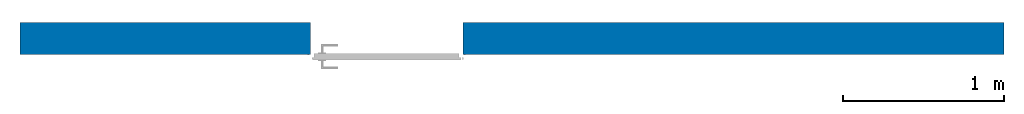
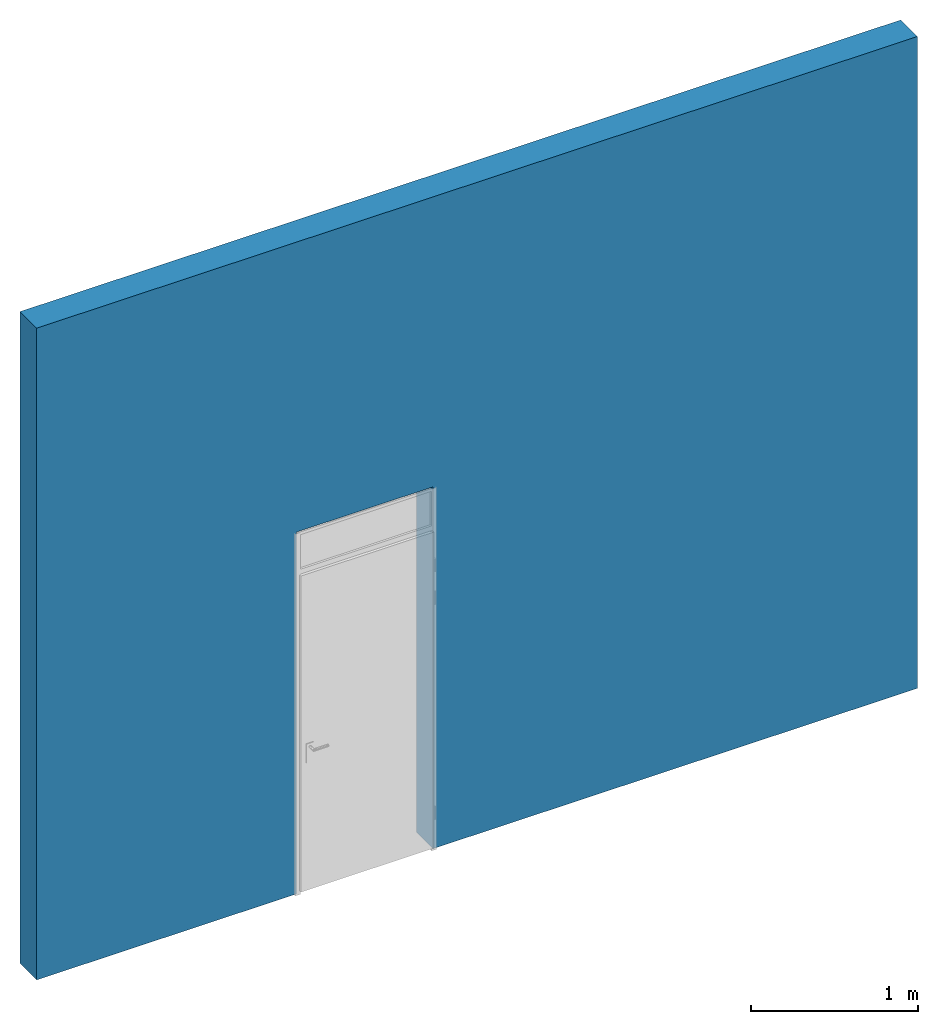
# One storey, incomplete: 1 wall, 1 opening.
"""IFC2X3 building model written with IfcOpenShell, lengths in millimetres."""

import ifcopenshell
import ifcopenshell.guid

model = None  # the IFC model being written
_history = None  # IfcOwnerHistory: only IFC2X3 demands one
_inside = {}  # id of a spatial element -> (the spatial element, [elements in it])
_under = {}  # id of a project, library or spatial element -> (it, [spatial elements below it])
_declared = {}  # id of a project -> (the project, [libraries it declares])
_typed = {}  # id of a type object -> (the type object, [elements of that type])
_made_of = {}  # id of a material, layer set ... -> (it, [elements and type objects made of it])


def new_model(schema):
    """Start an empty IFC model of exactly this schema.

    Asked for "IFC4X3", IfcOpenShell would pick the latest addendum, in which some entities
    have other attributes; the version numbers below select the first issue.
    IFC2X3 requires an IfcOwnerHistory on every rooted entity: one is made here for all.
    """
    global model, _history
    if schema == "IFC4X3":
        model = ifcopenshell.file(schema_version=(4, 3, 0, 0))
    else:
        model = ifcopenshell.file(schema=schema)
    _inside.clear()
    _under.clear()
    _declared.clear()
    _typed.clear()
    _made_of.clear()
    _history = None
    if model.schema == "IFC2X3":
        org = make("IfcOrganization", Name="unknown")
        user = make(
            "IfcPersonAndOrganization",
            ThePerson=make("IfcPerson", FamilyName="unknown"),
            TheOrganization=org,
        )
        app = make(
            "IfcApplication",
            ApplicationDeveloper=org,
            Version="unknown",
            ApplicationFullName="unknown",
            ApplicationIdentifier="unknown",
        )
        _history = make(
            "IfcOwnerHistory",
            OwningUser=user,
            OwningApplication=app,
            ChangeAction="ADDED",
            CreationDate=0,
        )
    return model


def make(cls, **values):
    """One entity of the class cls with the attributes given. An attribute that is None is left unset."""
    return model.create_entity(
        cls, **{name: value for name, value in values.items() if value is not None}
    )


def entity(cls, *values):
    """Any entity or typed value of the class cls, its attributes in the order of the schema. None: left unset."""
    e = model.create_entity(cls)
    for i, value in enumerate(values):
        if value is not None:
            e[i] = value
    return e


def rooted(cls, **values):
    """An entity with a GlobalId (a new one), such as an element, a storey or a relation."""
    return make(cls, GlobalId=ifcopenshell.guid.new(), OwnerHistory=_history, **values)


def si_unit(unit_type, name, prefix=None):
    """IfcSIUnit, for example si_unit("LENGTHUNIT", "METRE", prefix="MILLI")."""
    return make("IfcSIUnit", UnitType=unit_type, Prefix=prefix, Name=name)


def converted_unit(unit_type, name, factor, base, dimensions=None, offset=None):
    """IfcConversionBasedUnit, such as the inch: factor (a typed value) times the base unit."""
    return make(
        "IfcConversionBasedUnit"
        if offset is None
        else "IfcConversionBasedUnitWithOffset",
        ConversionOffset=offset,
        Dimensions=None
        if dimensions is None
        else entity("IfcDimensionalExponents", *dimensions),
        UnitType=unit_type,
        Name=name,
        ConversionFactor=make(
            "IfcMeasureWithUnit", ValueComponent=factor, UnitComponent=base
        ),
    )


def derived_unit(unit_type, elements):
    """IfcDerivedUnit: a product of units, each with its exponent."""
    return make(
        "IfcDerivedUnit",
        Elements=[
            make("IfcDerivedUnitElement", Unit=unit, Exponent=power)
            for unit, power in elements
        ],
        UnitType=unit_type,
    )


def assignment(units):
    """IfcUnitAssignment: the units of a project."""
    return None if units is None else make("IfcUnitAssignment", Units=units)


def point(xyz):
    """IfcCartesianPoint."""
    return None if xyz is None else make("IfcCartesianPoint", Coordinates=xyz)


def direction(xyz):
    """IfcDirection."""
    return None if xyz is None else make("IfcDirection", DirectionRatios=xyz)


def frame(location, z_axis=None, x_axis=None):
    """IfcAxis2Placement3D, a coordinate frame: its origin and axes. An axis left out is left unset."""
    return make(
        "IfcAxis2Placement3D",
        Location=point(location),
        Axis=direction(z_axis),
        RefDirection=direction(x_axis),
    )


def frame_2d(location, x_axis=None):
    """IfcAxis2Placement2D, a coordinate frame in the plane: its origin and x axis."""
    return make(
        "IfcAxis2Placement2D", Location=point(location), RefDirection=direction(x_axis)
    )


def origin():
    """The frame at (0, 0, 0) with its axes left unset."""
    return frame((0.0, 0.0, 0.0))


def place(relative_to, where):
    """IfcLocalPlacement: puts the frame where relative to a parent placement (None: the world)."""
    return make(
        "IfcLocalPlacement", PlacementRelTo=relative_to, RelativePlacement=where
    )


def context(
    kind, dimensions, precision=None, world=None, true_north=None, identifier=None
):
    """IfcGeometricRepresentationContext, for example the 3D "Model" context."""
    return make(
        "IfcGeometricRepresentationContext",
        ContextIdentifier=identifier,
        ContextType=kind,
        CoordinateSpaceDimension=dimensions,
        Precision=precision,
        WorldCoordinateSystem=world,
        TrueNorth=true_north,
    )


def subcontext(parent, identifier, kind, view, scale=None):
    """IfcGeometricRepresentationSubContext, for example "Body" below "Model"."""
    return make(
        "IfcGeometricRepresentationSubContext",
        ContextIdentifier=identifier,
        ContextType=kind,
        ParentContext=parent,
        TargetScale=scale,
        TargetView=view,
    )


def project(units=None, contexts=None):
    """IfcProject with its units and contexts."""
    return rooted(
        "IfcProject",
        Name="project",
        RepresentationContexts=contexts,
        UnitsInContext=assignment(units),
    )


def spatial(cls, under=None, at=None, **own):
    """A site, building, storey or space (cls), placed at a placement, below another one or the project."""
    s = rooted(cls, ObjectPlacement=at, **own)
    if under is not None:
        _under.setdefault(under.id(), (under, []))[1].append(s)
    return s


def profile(cls, at=None, kind="AREA", **sizes):
    """A parametric profile (cls). Its sizes go by their IFC names, for example OverallWidth=200.0."""
    return make(cls, ProfileType=kind, Position=at, **sizes)


def rectangle(**sizes):
    """IfcRectangleProfileDef."""
    return profile("IfcRectangleProfileDef", **sizes)


def extrude(swept, where, along, depth):
    """IfcExtrudedAreaSolid: the profile swept, set in the frame where, extruded along a direction by depth."""
    return make(
        "IfcExtrudedAreaSolid",
        SweptArea=swept,
        Position=where,
        ExtrudedDirection=direction(along),
        Depth=depth,
    )


def shape(context_of_items, identifier, shape_type, items):
    """IfcShapeRepresentation: the items that make up one representation, for example the "Body"."""
    return make(
        "IfcShapeRepresentation",
        ContextOfItems=context_of_items,
        RepresentationIdentifier=identifier,
        RepresentationType=shape_type,
        Items=items,
    )


def material(Name=None, Category=None):
    """IfcMaterial."""
    return make("IfcMaterial", Name=Name, Category=Category)


def layer(
    of_material, thickness, ventilated=None, Name=None, Category=None, Priority=None
):
    """IfcMaterialLayer: one layer of a wall or slab, of a material (None: an air gap)."""
    return make(
        "IfcMaterialLayer",
        Material=of_material,
        LayerThickness=thickness,
        IsVentilated=ventilated,
        Name=Name,
        Category=Category,
        Priority=Priority,
    )


def layer_set(layers, Name=None):
    """IfcMaterialLayerSet."""
    return make("IfcMaterialLayerSet", MaterialLayers=layers, LayerSetName=Name)


def layer_usage(for_layer_set, set_direction, sense, offset, extent=None):
    """IfcMaterialLayerSetUsage: how a layer set lies in its element."""
    return make(
        "IfcMaterialLayerSetUsage",
        ForLayerSet=for_layer_set,
        LayerSetDirection=set_direction,
        DirectionSense=sense,
        OffsetFromReferenceLine=offset,
        ReferenceExtent=extent,
    )


def made_of(thing, what):
    """Note that an element or type object is made of a material, layer set ...; save() writes the relation."""
    if what is not None:
        _made_of.setdefault(what.id(), (what, []))[1].append(thing)
    return thing


def type_object(cls, material=None, **own):
    """A type object (cls), such as IfcWallType, which elements share."""
    return made_of(rooted(cls, **own), material)


def element(
    cls,
    number,
    at=None,
    inside=None,
    cuts=None,
    type_object=None,
    material=None,
    context=None,
    identifier="Body",
    shape_type=None,
    held_by="IfcProductDefinitionShape",
    body=None,
    shapes=None,
    **own,
):
    """One element of the class cls, such as IfcWall. Its Tag is "e" and its number.

    at: its placement. inside: the storey or other place that contains it. cuts: it is an
    opening in that element (IfcRelVoidsElement). A single representation is given by context,
    identifier, shape_type and body (its items); several are given by shapes. held_by: the class
    of the entity that holds the representations. save() writes the other relations.
    """
    e = rooted(cls, Tag="e%d" % number, ObjectPlacement=at, **own)
    if body is not None:
        shapes = [shape(context, identifier, shape_type, body)]
    if shapes is not None:
        e.Representation = make(held_by, Representations=shapes)
    if inside is not None:
        _inside.setdefault(inside.id(), (inside, []))[1].append(e)
    if cuts is not None:
        rooted(
            "IfcRelVoidsElement", RelatingBuildingElement=cuts, RelatedOpeningElement=e
        )
    if type_object is not None:
        _typed.setdefault(type_object.id(), (type_object, []))[1].append(e)
    return made_of(e, material)


def aggregate(whole, parts):
    """IfcRelAggregates: a whole, such as a stair, and the parts it consists of."""
    return rooted("IfcRelAggregates", RelatingObject=whole, RelatedObjects=parts)


def save(model, path):
    """Write the relations noted so far, then the file.

    IfcRelAggregates (storeys below a building ...), IfcRelContainedInSpatialStructure (elements
    in a storey), IfcRelDefinesByType, IfcRelAssociatesMaterial and IfcRelDeclares: one each for
    every whole, place, type object, material and project.
    """
    for whole, parts in _under.values():
        aggregate(whole, parts)
    for where, things in _inside.values():
        rooted(
            "IfcRelContainedInSpatialStructure",
            RelatedElements=things,
            RelatingStructure=where,
        )
    for kind, things in _typed.values():
        rooted("IfcRelDefinesByType", RelatedObjects=things, RelatingType=kind)
    for what, things in _made_of.values():
        rooted("IfcRelAssociatesMaterial", RelatedObjects=things, RelatingMaterial=what)
    for by, libraries in _declared.values():
        rooted("IfcRelDeclares", RelatingContext=by, RelatedDefinitions=libraries)
    model.write(path)


model = new_model("IFC2X3")

# Units and contexts
model_context = context("Model", 3, precision=0.01, world=origin(), true_north=direction((6.12303176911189e-17, 1.0)))
body_context = subcontext(model_context, "Body", "Model", "MODEL_VIEW")
ifc_project = project(units=[si_unit("LENGTHUNIT", "METRE", prefix="MILLI"), si_unit("AREAUNIT", "SQUARE_METRE"), si_unit("VOLUMEUNIT", "CUBIC_METRE"), converted_unit("PLANEANGLEUNIT", "DEGREE", entity("IfcRatioMeasure", 0.0174532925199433), si_unit("PLANEANGLEUNIT", "RADIAN"), dimensions=[0, 0, 0, 0, 0, 0, 0]), si_unit("MASSUNIT", "GRAM", prefix="KILO"), derived_unit("MASSDENSITYUNIT", [(si_unit("MASSUNIT", "GRAM", prefix="KILO"), 1), (si_unit("LENGTHUNIT", "METRE"), -3)]), si_unit("TIMEUNIT", "SECOND"), si_unit("FREQUENCYUNIT", "HERTZ"), si_unit("THERMODYNAMICTEMPERATUREUNIT", "DEGREE_CELSIUS"), derived_unit("THERMALTRANSMITTANCEUNIT", [(si_unit("MASSUNIT", "GRAM", prefix="KILO"), 1), (si_unit("THERMODYNAMICTEMPERATUREUNIT", "KELVIN"), -1), (si_unit("TIMEUNIT", "SECOND"), -3)]), derived_unit("VOLUMETRICFLOWRATEUNIT", [(si_unit("LENGTHUNIT", "METRE"), 3), (si_unit("TIMEUNIT", "SECOND"), -1)]), si_unit("ELECTRICCURRENTUNIT", "AMPERE"), si_unit("ELECTRICVOLTAGEUNIT", "VOLT"), si_unit("POWERUNIT", "WATT"), si_unit("FORCEUNIT", "NEWTON", prefix="KILO"), si_unit("ILLUMINANCEUNIT", "LUX"), si_unit("LUMINOUSFLUXUNIT", "LUMEN"), si_unit("LUMINOUSINTENSITYUNIT", "CANDELA"), derived_unit("USERDEFINED", [(si_unit("MASSUNIT", "GRAM", prefix="KILO"), -1), (si_unit("LENGTHUNIT", "METRE"), -2), (si_unit("TIMEUNIT", "SECOND"), 3), (si_unit("LUMINOUSFLUXUNIT", "LUMEN"), 1)]), derived_unit("LINEARVELOCITYUNIT", [(si_unit("LENGTHUNIT", "METRE"), 1), (si_unit("TIMEUNIT", "SECOND"), -1)]), si_unit("PRESSUREUNIT", "PASCAL"), derived_unit("USERDEFINED", [(si_unit("LENGTHUNIT", "METRE"), -2), (si_unit("MASSUNIT", "GRAM", prefix="KILO"), 1), (si_unit("TIMEUNIT", "SECOND"), -2)])], contexts=[model_context])

# Site, building, storey
site_placement = place(None, origin())
site = spatial("IfcSite", under=ifc_project, at=site_placement, Name="Default", CompositionType="ELEMENT")
building_placement = place(site_placement, origin())
building = spatial("IfcBuilding", under=site, at=building_placement, Name="Building Name", CompositionType="ELEMENT")
storey_placement = place(building_placement, origin())
storey = spatial("IfcBuildingStorey", under=building, at=storey_placement, Name="Level 1", CompositionType="ELEMENT", Elevation=0.0)

# Wall, opening
ifc_material = material(Name="Concrete, Cast In Situ")
ifc_layer = layer(ifc_material, 200.0)
ifc_layer_set = layer_set([ifc_layer], Name="Basic Wall:Generic - 200mm")
ifc_layer_usage = layer_usage(ifc_layer_set, "AXIS2", "NEGATIVE", 100.0)
wall_type = type_object("IfcWallType", Name="Basic Wall:Generic - 200mm", PredefinedType="STANDARD", material=ifc_layer_set)
wall_placement = place(storey_placement, frame((18864.8598617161, -4140.20613961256, 0.0)))
wall = element("IfcWallStandardCase", 1, at=wall_placement, inside=storey, type_object=wall_type, material=ifc_layer_usage, Name="Manual override for IfcName", ObjectType="Basic Wall:Generic - 200mm", context=body_context, shape_type="SweptSolid", body=[
    extrude(rectangle(XDim=6100.0, YDim=200.0, at=frame_2d((3050.0, -2.1316282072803e-14), x_axis=(-1.0, 0.0))), origin(), (0.0, 0.0, 1.0), 4773.49803295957),
])
opening_placement = place(wall_placement, frame((-18864.8598617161, 4140.20613961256, 0.0)))
element("IfcOpeningElement", 2, at=opening_placement, cuts=wall, Name="IfcName", ObjectType="Opening", context=body_context, shape_type="SweptSolid", body=[
    extrude(rectangle(XDim=2649.99999999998, YDim=945.000000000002, at=frame_2d((4.34852154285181e-12, -438.333333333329), x_axis=(0.0, 1.0))), frame((21137.3598617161, -4240.20613961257, 886.666666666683), z_axis=(0.0, 1.0, 0.0), x_axis=(1.0, 0.0, 0.0)), (0.0, 0.0, 1.0), 200.0),
])

save(model, "model.ifc")
